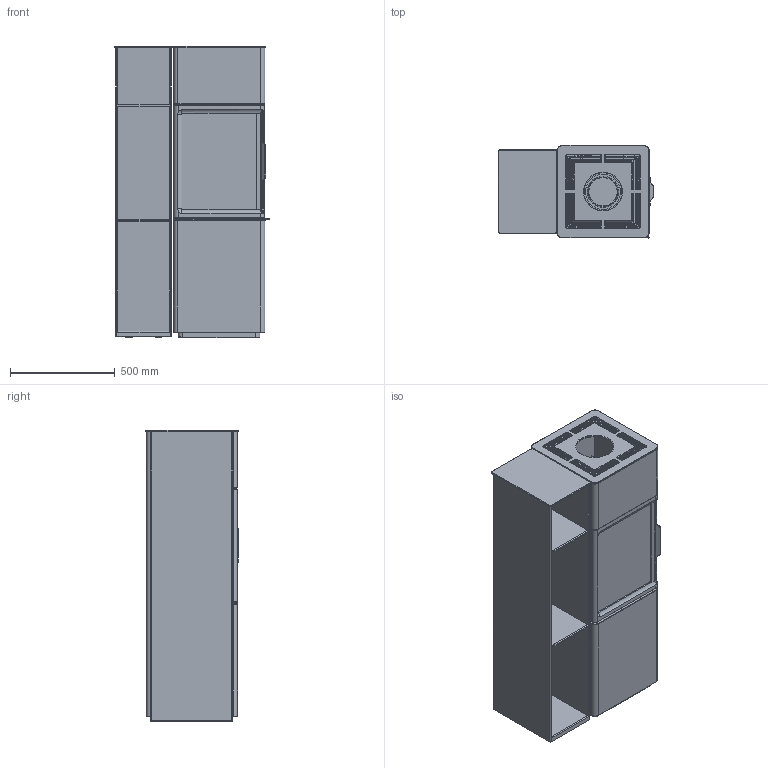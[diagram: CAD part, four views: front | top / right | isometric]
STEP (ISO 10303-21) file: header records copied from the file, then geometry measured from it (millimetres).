
FILE_DESCRIPTION(/* description */ ('Unknown'),/* implementation_level */ '2;1');
FILE_NAME(/* name */ 'C410R Interior model',/* time_stamp */ '2026-08-14T11:41:21+02:00',/* author */ ('Unknown'),/* organization */ ('Unknown'),/* preprocessor_version */ 'ST-DEVELOPER v20',/* originating_system */ 'Solid Edge',/* authorisation */ 'Unknown');
FILE_SCHEMA (('AUTOMOTIVE_DESIGN {1 0 10303 214 3 1 1}'));
Products named in the file (7): DSN1152723; DSN1152293; DSN1152734; DSN1152548; DSN1152835; DSN1152682; DSN1152653
Assembly tree (7 placements, depth 2):
  DSN1152723
    DSN1152293
    DSN1152734
    DSN1152548  x2
    DSN1152835
    DSN1152682
    DSN1152653
Bounding box: 740.79 x 443.76 x 1392 mm (x, y, z)
Volume: 156480626.1 mm3; surface area: 12879330.6 mm2
Topology: 9 solids, 9 shells, 2629 faces, 6805 edges, 4396 vertices
Faces by surface type: plane 1724, bspline 486, cylinder 351, torus 44, sphere 15, cone 9
Full cylindrical faces by diameter (mm): 8 x2, 25 x2, 30 x4, 32.5 x4, 38 x4, 98 x1, 135.222 x1, 140 x1, 145.23 x1, 168 x1, 173.696 x2, 180.688 x1
Entity records: 111637 total; most frequent: CARTESIAN_POINT 44991, ORIENTED_EDGE 13460, DIRECTION 9207, EDGE_CURVE 6730, VERTEX_POINT 4377, LINE 3201, VECTOR 3201, AXIS2_PLACEMENT_3D 3003
